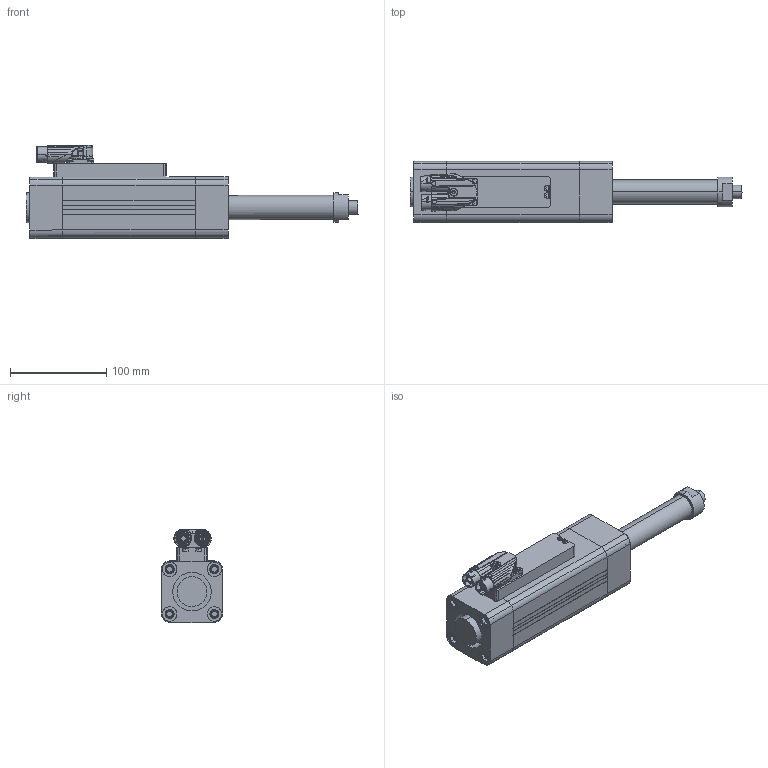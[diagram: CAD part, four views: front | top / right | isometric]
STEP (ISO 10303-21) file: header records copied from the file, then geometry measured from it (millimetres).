
FILE_DESCRIPTION(('STEP AP214'),'1');
FILE_NAME('C:/Users/Autocad/Desktop/ETT.stp','2013-11-08T08:23:23',(' '),(' '),'Spatial InterOp 3D',' ',' ');
FILE_SCHEMA(('automotive_design'));
Length unit declared in the file: millimetre
Products named in the file (26): ETT; ETH050.1; TAPPO NORMALE; TAPPO; Scatola; Vite M3 lunga; Connettore a y a blocchi; Pin; Vite; Pallino verde; Pallino arancione; Frutto verde; Frutto arancione; Corpo connettore; Vite M3scheda -tappo; cuscinetto; viti parker; Slider 410 FINTO; riempitivo
Assembly tree (35 placements, depth 3):
  ETT
    ETH050.1
    TAPPO NORMALE
    TAPPO
    Scatola
    Vite M3 lunga  x4
    Connettore a y a blocchi
      Pin
      Vite
      Pallino verde
      Pallino arancione
      Frutto verde
      Frutto arancione
      Corpo connettore
    Vite M3scheda -tappo  x4
    cuscinetto  x2
    viti parker
    viti parker
    viti parker
    viti parker
    viti parker
    viti parker
    viti parker
    viti parker
    Slider 410 FINTO
    riempitivo  x4
Bounding box: 345.01 x 63.51 x 97.01 mm (x, y, z)
Volume: 749945.1 mm3; surface area: 238592.6 mm2
Topology: 27 solids, 1870 shells, 2469 faces, 10174 edges, 9618 vertices
Faces by surface type: cylinder 1013, plane 700, bspline 284, torus 262, cone 95, extrusion 68, sphere 47
Entity records: 160251 total; most frequent: CARTESIAN_POINT 59269, DIRECTION 14396, ORIENTED_EDGE 10115, EDGE_CURVE 9276, VERTEX_POINT 8998, AXIS2_PLACEMENT_3D 5512, STYLED_ITEM 3491, PRESENTATION_STYLE_ASSIGNMENT 3491
